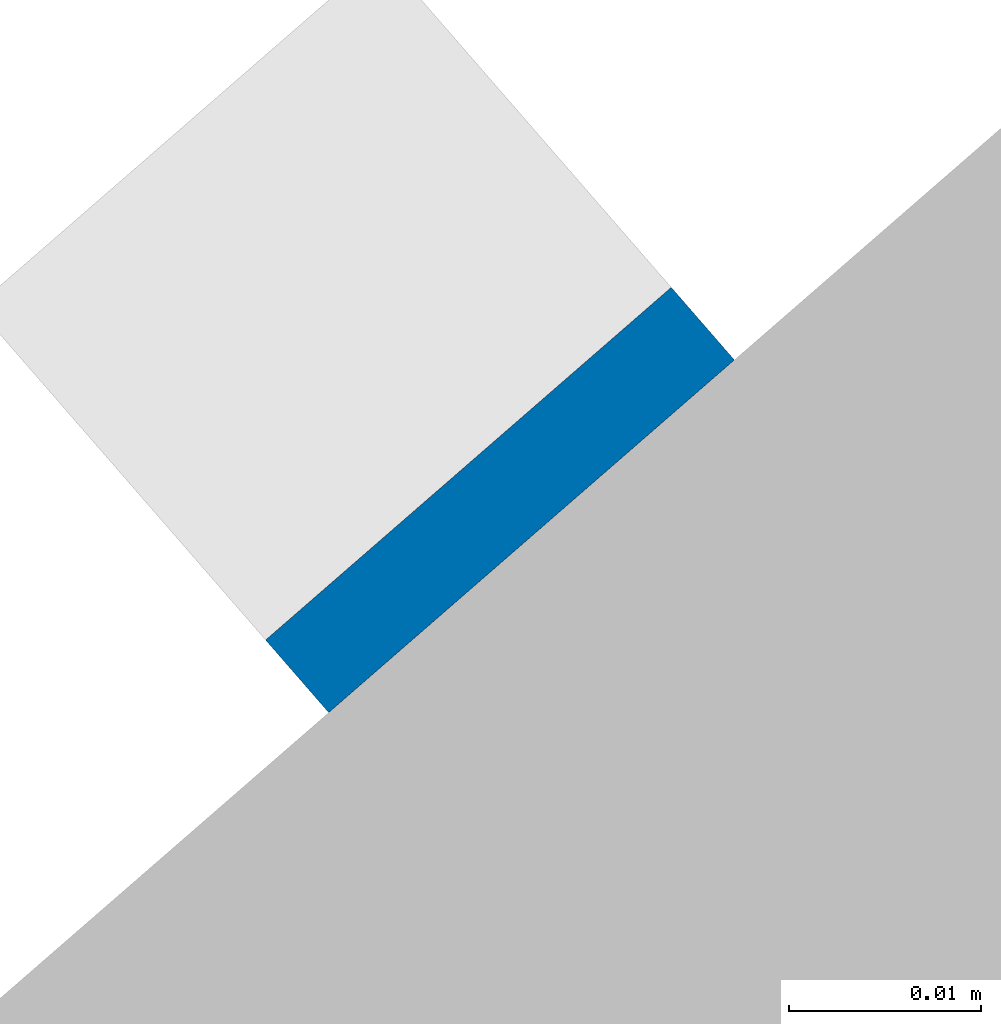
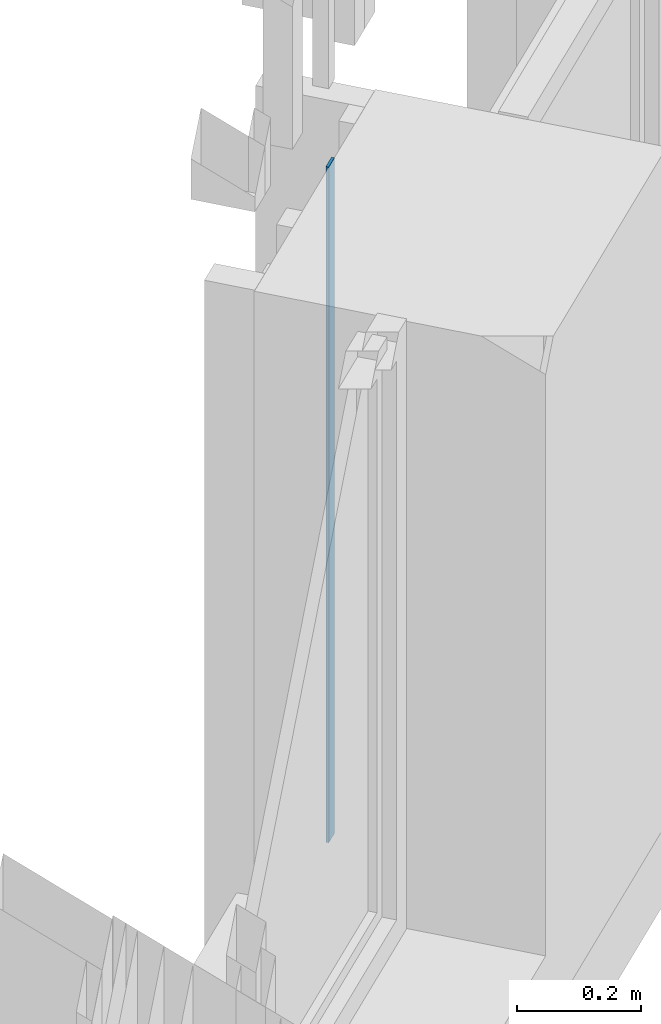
# One storey, part 232 of 390: 1 wall.
"""IFC2X3 building model written with IfcOpenShell, lengths in millimetres."""

from ifc_helpers import new_model, entity, si_unit, converted_unit, derived_unit, money_unit, direction, frame, origin_with_axes, place, context, subcontext, project, spatial, faceted_brep, material, type_object, element, save


model = new_model("IFC2X3")

# Units and contexts
model_context = context("Model", 3, precision=1e-05, world=origin_with_axes(), true_north=direction((0.0, 1.0)))
body_context = subcontext(model_context, "Body", "Model", "MODEL_VIEW")
ifc_project = project(units=[si_unit("LENGTHUNIT", "METRE", prefix="MILLI"), si_unit("AREAUNIT", "SQUARE_METRE"), si_unit("VOLUMEUNIT", "CUBIC_METRE"), converted_unit("PLANEANGLEUNIT", "DEGREE", entity("IfcPlaneAngleMeasure", 0.0174532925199), si_unit("PLANEANGLEUNIT", "RADIAN"), dimensions=[0, 0, 0, 0, 0, 0, 0]), si_unit("SOLIDANGLEUNIT", "STERADIAN"), money_unit("EUR"), converted_unit("TIMEUNIT", "Year", entity("IfcTimeMeasure", 31556926.0), si_unit("TIMEUNIT", "SECOND"), dimensions=[0, 0, 1, 0, 0, 0, 0]), si_unit("MASSUNIT", "GRAM", prefix="KILO"), si_unit("THERMODYNAMICTEMPERATUREUNIT", "DEGREE_CELSIUS"), si_unit("LUMINOUSINTENSITYUNIT", "LUMEN"), si_unit("ENERGYUNIT", "JOULE", prefix="MEGA"), derived_unit("THERMALCONDUCTANCEUNIT", [(si_unit("POWERUNIT", "WATT"), 1), (si_unit("LENGTHUNIT", "METRE"), -1), (si_unit("THERMODYNAMICTEMPERATUREUNIT", "KELVIN"), -1)]), derived_unit("SPECIFICHEATCAPACITYUNIT", [(si_unit("ENERGYUNIT", "JOULE"), 1), (si_unit("MASSUNIT", "GRAM", prefix="KILO"), -1), (si_unit("THERMODYNAMICTEMPERATUREUNIT", "KELVIN"), -1)]), derived_unit("MASSDENSITYUNIT", [(si_unit("MASSUNIT", "GRAM", prefix="KILO"), 1), (si_unit("VOLUMEUNIT", "CUBIC_METRE"), -1)])], contexts=[model_context])

# Site, building, storey
site_placement = place(None, origin_with_axes())
site = spatial("IfcSite", under=ifc_project, at=site_placement, Name="Site", CompositionType="ELEMENT")
building_placement = place(site_placement, origin_with_axes())
building = spatial("IfcBuilding", under=site, at=building_placement, Name="Building", CompositionType="ELEMENT")
storey_placement = place(building_placement, origin_with_axes())
storey = spatial("IfcBuildingStorey", under=building, at=storey_placement, Name="1 korrus", CompositionType="ELEMENT", Elevation=0.0)

# Wall
ifc_material = material(Name="Site specified")
wall_type = type_object("IfcWallType", Name="Puitfassaadi ribistik", PredefinedType="NOTDEFINED")
wall_placement = place(storey_placement, frame((140309.321168, 91960.397429, 0.0), z_axis=(0.0, 0.0, 1.0), x_axis=(0.754709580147, 0.656059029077, 0.0)))
element("IfcWall", 1, at=wall_placement, inside=storey, type_object=wall_type, material=ifc_material, Name="Site specified", context=body_context, shape_type="Brep", body=[
    faceted_brep([(-14.0, 14.0, 1330.0), (-14.0, 8.99056902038, 1330.0), (14.0000000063, 8.99050270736, 1330.0), (14.0, 14.0, 1330.0), (-14.0, 14.0, 0.0), (-14.0, 8.98791195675, 0.0), (14.0, 8.98784856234, 0.0), (14.0, 14.0, 0.0)], [[[0, 1, 2, 3]], [[4, 5, 1, 0]], [[5, 6, 2, 1]], [[3, 2, 6, 7]], [[0, 3, 7, 4]], [[7, 6, 5, 4]]]),
])

save(model, "model.ifc")
